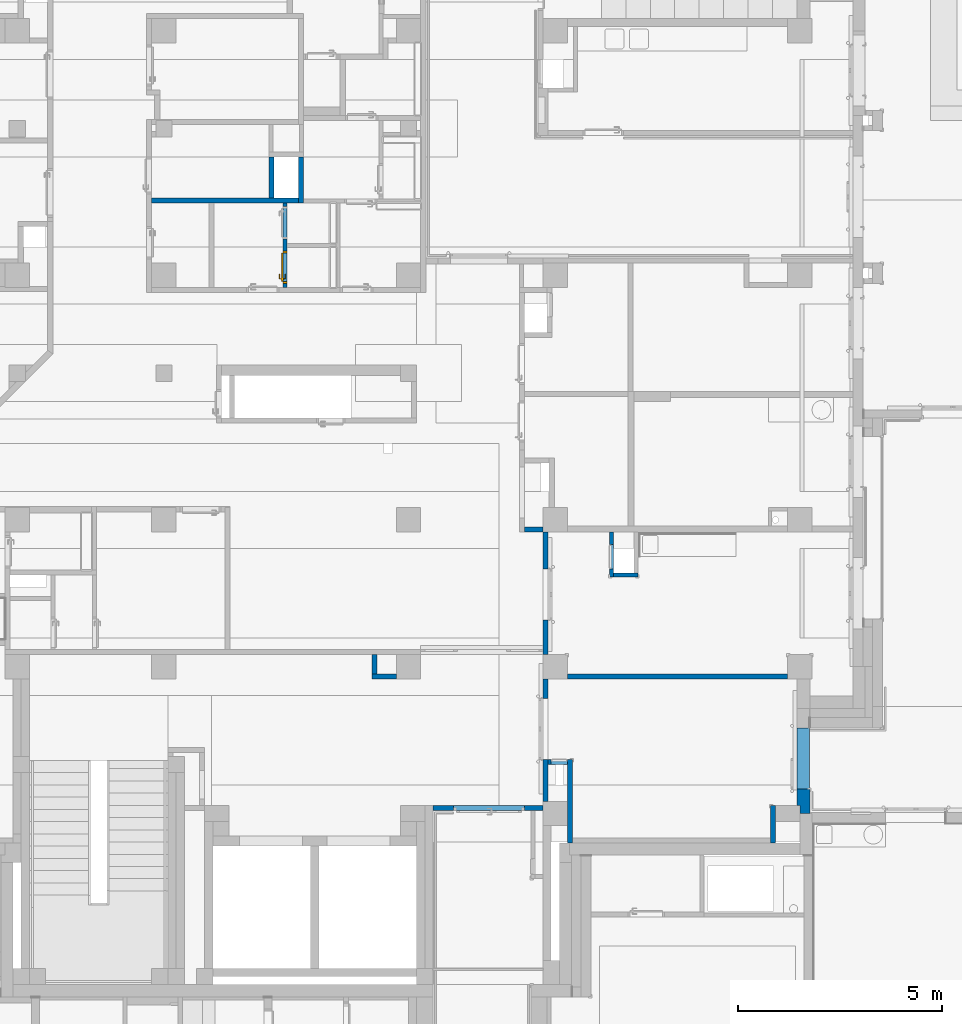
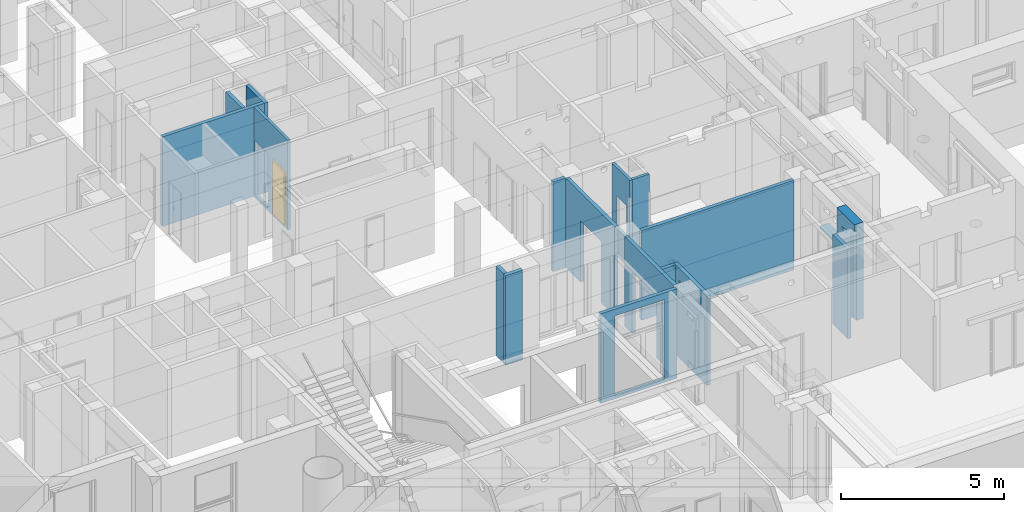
# One storey, part 39 of 140: 18 walls, 1 door, 13 openings.
"""IFC4 building model written with IfcOpenShell, lengths in metres."""

from ifc_helpers import new_model, entity, si_unit, converted_unit, derived_unit, frame, frame_2d, origin, origin_with_axes, place, context, subcontext, project, spatial, polyline, rectangle, outline, extrude, clip, bounded_halfspace, closed_shell, open_shell, surface_model, source, transform, mapped, material, layer, layer_set, layer_usage, type_object, element, fill, save


model = new_model("IFC4")

# Units and contexts
model_context = context("Model", 3, precision=1e-05, world=origin())
body_context = subcontext(model_context, "Body", "Model", "MODEL_VIEW")
ifc_project = project(units=[si_unit("LENGTHUNIT", "METRE"), si_unit("AREAUNIT", "SQUARE_METRE"), si_unit("VOLUMEUNIT", "CUBIC_METRE"), si_unit("MASSUNIT", "GRAM", prefix="KILO"), converted_unit("PLANEANGLEUNIT", "DEGREE", entity("IfcPlaneAngleMeasure", 0.0174532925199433), si_unit("PLANEANGLEUNIT", "RADIAN"), dimensions=[0, 0, 0, 0, 0, 0, 0]), derived_unit("THERMALTRANSMITTANCEUNIT", [(si_unit("POWERUNIT", "WATT"), 1), (si_unit("THERMODYNAMICTEMPERATUREUNIT", "KELVIN"), -1), (si_unit("LENGTHUNIT", "METRE"), -2)]), derived_unit("VOLUMETRICFLOWRATEUNIT", [(si_unit("LENGTHUNIT", "METRE"), 3), (converted_unit("TIMEUNIT", "hour", entity("IfcTimeMeasure", 3600.0), si_unit("TIMEUNIT", "SECOND"), dimensions=[0, 0, 1, 0, 0, 0, 0]), -1), (si_unit("LENGTHUNIT", "METRE"), -1)])], contexts=[model_context])

# Site, building, storey
site_placement = place(None, origin())
site = spatial("IfcSite", under=ifc_project, at=site_placement, Name="3. ASŘ", CompositionType="ELEMENT")
building_placement = place(site_placement, origin())
building = spatial("IfcBuilding", under=site, at=building_placement, Name="Pavilon C", CompositionType="ELEMENT")
storey_placement = place(building_placement, origin())
storey = spatial("IfcBuildingStorey", under=building, at=storey_placement, Name="Půdorys 1.NP", CompositionType="ELEMENT", Elevation=0.0)

# Walls
ifc_material_1 = material(Name="ZDIVO Z CDm")
ifc_layer_1 = layer(ifc_material_1, 0.125)
ifc_layer_set_1 = layer_set([ifc_layer_1])
ifc_layer_usage_1 = layer_usage(ifc_layer_set_1, "AXIS2", "POSITIVE", 0.0)
wall_1_placement = place(storey_placement, frame((37.05, 15.1, -0.1), z_axis=(0.0, 0.0, 1.0), x_axis=(0.0, 1.0, 0.0)))
element("IfcWall", 1, at=wall_1_placement, inside=storey, material=ifc_layer_usage_1, Name="ZDIVO Z CDm", context=body_context, shape_type="SweptSolid", body=[
    extrude(rectangle(XDim=1.0, YDim=0.125, at=frame_2d((0.5, 0.0625), x_axis=(1.0, 0.0))), origin_with_axes(), (0.0, 0.0, 1.0), 3.35),
])
ifc_material_2 = material(Name="ZDIVO Z CDm")
ifc_layer_2 = layer(ifc_material_2, 0.125)
ifc_layer_set_2 = layer_set([ifc_layer_2])
ifc_layer_usage_2 = layer_usage(ifc_layer_set_2, "AXIS2", "POSITIVE", 0.0)
wall_2_placement = place(storey_placement, frame((39.45, 3.29999999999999, -0.1)))
element("IfcWall", 2, at=wall_2_placement, inside=storey, material=ifc_layer_usage_2, Name="ZDIVO Z CDm", context=body_context, shape_type="SweptSolid", body=[
    extrude(rectangle(XDim=0.6, YDim=0.125, at=frame_2d((0.3, 0.0625), x_axis=(1.0, 0.0))), origin_with_axes(), (0.0, 0.0, 1.0), 3.35),
])
ifc_material_3 = material(Name="ZDIVO Z CDm")
ifc_layer_3 = layer(ifc_material_3, 0.125)
ifc_layer_set_3 = layer_set([ifc_layer_3])
ifc_layer_usage_3 = layer_usage(ifc_layer_set_3, "AXIS2", "POSITIVE", 0.0)
wall_3_placement = place(storey_placement, frame((39.45, 3.89999999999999, -0.1), z_axis=(0.0, 0.0, 1.0), x_axis=(0.0, -1.0, 0.0)))
element("IfcWall", 3, at=wall_3_placement, inside=storey, material=ifc_layer_usage_3, Name="ZDIVO Z CDm", context=body_context, shape_type="SweptSolid", body=[
    extrude(rectangle(XDim=0.475, YDim=0.125, at=frame_2d((0.2375, 0.0625), x_axis=(1.0, 0.0))), origin_with_axes(), (0.0, 0.0, 1.0), 3.35),
])

# Wall, openings
ifc_material_4 = material(Name="ZDIVO Z CDm")
ifc_layer_4 = layer(ifc_material_4, 0.125)
ifc_layer_set_4 = layer_set([ifc_layer_4])
ifc_layer_usage_4 = layer_usage(ifc_layer_set_4, "AXIS2", "POSITIVE", 0.0)
wall_4_placement = place(storey_placement, frame((44.25, 1.32499999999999, -0.1), z_axis=(0.0, 0.0, 1.0), x_axis=(0.0, -1.0, 0.0)))
wall_4 = element("IfcWall", 4, at=wall_4_placement, inside=storey, material=ifc_layer_usage_4, Name="ZDIVO Z CDm", context=body_context, shape_type="SweptSolid", body=[
    extrude(rectangle(XDim=2.045, YDim=0.125, at=frame_2d((1.0225, 0.0625), x_axis=(1.0, 0.0))), origin_with_axes(), (0.0, 0.0, 1.0), 3.35),
])
opening_1_placement = place(wall_4_placement, frame((0.883125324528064, 0.0, 3.155), z_axis=(0.0, 1.0, 0.0), x_axis=(0.0, 0.0, 1.0)))
element("IfcOpeningElement", 5, at=opening_1_placement, cuts=wall_4, Name="ZTI", ObjectType="Opening", context=body_context, shape_type="SweptSolid", body=[
    extrude(outline(polyline([(0.0349999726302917, 0.0), (0.0313414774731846, 0.000191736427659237), (0.0277230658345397, 0.000764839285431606), (0.0241843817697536, 0.00171302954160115), (0.0207641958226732, 0.00302591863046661), (0.0174999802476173, 0.00468912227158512), (0.0144274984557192, 0.00668441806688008), (0.0115804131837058, 0.00898994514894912), (0.00898991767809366, 0.011580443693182), (0.00668439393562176, 0.0144275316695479), (0.00468910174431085, 0.0175000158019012), (0.00302590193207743, 0.0207642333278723), (0.00171301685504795, 0.0241844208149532), (0.000764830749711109, 0.0277231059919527), (0.000191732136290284, 0.031341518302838), (0.0, 0.0350000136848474), (0.00019173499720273, 0.0386585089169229), (0.00076483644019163, 0.0422769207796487), (0.00171302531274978, 0.0458156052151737), (0.00302591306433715, 0.0492357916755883), (0.00468911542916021, 0.0525000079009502), (0.00668441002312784, 0.0555724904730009), (0.00898993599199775, 0.0584195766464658), (0.011580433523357, 0.0610100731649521), (0.0144275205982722, 0.0633155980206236), (0.0175000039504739, 0.0653108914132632), (0.0207642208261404, 0.066974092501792), (0.024184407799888, 0.0682869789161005), (0.0277230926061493, 0.0692351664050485), (0.0313415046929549, 0.0698082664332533), (0.0349999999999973, 0.07), (0.0386584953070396, 0.0698082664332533), (0.0422769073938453, 0.0692351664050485), (0.0458155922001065, 0.0682869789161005), (0.0492357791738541, 0.066974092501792), (0.0524999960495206, 0.0653108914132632), (0.0555724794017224, 0.0633155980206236), (0.0584195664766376, 0.0610100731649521), (0.0610100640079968, 0.0584195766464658), (0.0633155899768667, 0.0555724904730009), (0.0653108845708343, 0.0525000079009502), (0.0669740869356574, 0.0492357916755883), (0.0682869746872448, 0.0458156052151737), (0.0692351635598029, 0.0422769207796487), (0.0698082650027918, 0.0386585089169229), (0.0699999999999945, 0.0350000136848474), (0.0698082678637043, 0.031341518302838), (0.0692351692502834, 0.0277231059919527), (0.0682869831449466, 0.0241844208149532), (0.0669740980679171, 0.0207642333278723), (0.0653108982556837, 0.0175000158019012), (0.0633156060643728, 0.0144275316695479), (0.0610100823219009, 0.011580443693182), (0.0584195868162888, 0.00898994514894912), (0.0555725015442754, 0.00668441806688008), (0.0525000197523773, 0.00468912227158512), (0.0492358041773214, 0.00302591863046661), (0.0458156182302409, 0.00171302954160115), (0.0422769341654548, 0.000764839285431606), (0.03865852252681, 0.000191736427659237), (0.0349999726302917, 0.0)])), origin_with_axes(), (0.0, 0.0, 1.0), 0.125),
])
opening_2_placement = place(wall_4_placement, frame((0.320852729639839, 0.0, 2.79), z_axis=(0.0, 1.0, 0.0), x_axis=(0.0, 0.0, 1.0)))
element("IfcOpeningElement", 6, at=opening_2_placement, cuts=wall_4, Name="ZTI", ObjectType="Opening", context=body_context, shape_type="SweptSolid", body=[
    extrude(outline(polyline([(0.0, 0.275), (0.11, 0.275), (0.11, 0.0), (0.0, 0.0), (0.0, 0.275)])), origin_with_axes(), (0.0, 0.0, 1.0), 0.125),
])

# Wall, opening
ifc_material_5 = material(Name="ZDIVO Z CDm")
ifc_layer_5 = layer(ifc_material_5, 0.125)
ifc_layer_set_5 = layer_set([ifc_layer_5])
ifc_layer_usage_5 = layer_usage(ifc_layer_set_5, "AXIS2", "POSITIVE", 0.0)
wall_5_placement = place(storey_placement, frame((43.65, 3.29999999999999, -0.1), z_axis=(0.0, 0.0, 1.0), x_axis=(0.0, -1.0, 0.0)))
wall_5 = element("IfcWall", 7, at=wall_5_placement, inside=storey, material=ifc_layer_usage_5, Name="ZDIVO Z CDm", context=body_context, shape_type="SweptSolid", body=[
    extrude(rectangle(XDim=3.0, YDim=0.125, at=frame_2d((1.5, 0.0625), x_axis=(1.0, 0.0))), origin_with_axes(), (0.0, 0.0, 1.0), 3.35),
])
opening_3_placement = place(wall_5_placement, frame((1.975, 0.125, 0.0), z_axis=(0.0, -1.0, 0.0), x_axis=(0.0, 0.0, 1.0)))
element("IfcOpeningElement", 8, at=opening_3_placement, cuts=wall_5, Name="Dveřní otvor", ObjectType="Opening", context=body_context, shape_type="SweptSolid", body=[
    extrude(outline(polyline([(0.0, 1.5), (2.3, 1.5), (2.3, 0.0), (0.0, 0.0), (0.0, 1.5)])), origin_with_axes(), (0.0, 0.0, 1.0), 0.125),
])

# Wall, openings
ifc_material_6 = material(Name="ZDIVO Z CDm")
ifc_layer_6 = layer(ifc_material_6, 0.125)
ifc_layer_set_6 = layer_set([ifc_layer_6])
ifc_layer_usage_6 = layer_usage(ifc_layer_set_6, "AXIS2", "POSITIVE", 0.0)
wall_6_placement = place(storey_placement, frame((44.25, 1.32499999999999, -0.1), z_axis=(0.0, 0.0, 1.0), x_axis=(-1.0, 0.0, 0.0)))
wall_6 = element("IfcWall", 9, at=wall_6_placement, inside=storey, material=ifc_layer_usage_6, Name="ZDIVO Z CDm", context=body_context, shape_type="SweptSolid", body=[
    extrude(rectangle(XDim=0.475, YDim=0.125, at=frame_2d((0.2375, 0.0625), x_axis=(1.0, 0.0))), origin_with_axes(), (0.0, 0.0, 1.0), 3.35),
])
opening_4_placement = place(wall_6_placement, frame((0.155002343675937, 0.0, 2.99), z_axis=(0.0, 1.0, 0.0), x_axis=(0.0, 0.0, 1.0)))
element("IfcOpeningElement", 10, at=opening_4_placement, cuts=wall_6, Name="UT", ObjectType="Opening", context=body_context, shape_type="SweptSolid", body=[
    extrude(outline(polyline([(0.0, 0.28), (0.12, 0.28), (0.12, 0.0), (0.0, 0.0), (0.0, 0.28)])), origin_with_axes(), (0.0, 0.0, 1.0), 0.12),
])
opening_5_placement = place(wall_6_placement, frame((0.0, 0.0, 1.1), z_axis=(0.0, 1.0, 0.0), x_axis=(0.0, 0.0, 1.0)))
element("IfcOpeningElement", 11, at=opening_5_placement, cuts=wall_6, Name="Okenní otvor", ObjectType="Opening", context=body_context, shape_type="SweptSolid", body=[
    extrude(outline(polyline([(0.0, 0.4), (0.4, 0.4), (0.4, 0.0), (0.0, 0.0), (0.0, 0.4)])), origin_with_axes(), (0.0, 0.0, 1.0), 0.125),
])

# Wall, opening
ifc_material_7 = material(Name="ZDIVO Z CDm")
ifc_layer_7 = layer(ifc_material_7, 0.125)
ifc_layer_set_7 = layer_set([ifc_layer_7])
ifc_layer_usage_7 = layer_usage(ifc_layer_set_7, "AXIS2", "POSITIVE", 0.0)
wall_7_placement = place(storey_placement, frame((43.65, 0.199999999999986, -0.1), z_axis=(0.0, 0.0, 1.0), x_axis=(-1.0, 0.0, 0.0)))
wall_7 = element("IfcWall", 12, at=wall_7_placement, inside=storey, material=ifc_layer_usage_7, Name="ZDIVO Z CDm", context=body_context, shape_type="SweptSolid", body=[
    extrude(rectangle(XDim=2.7, YDim=0.125, at=frame_2d((1.35, 0.0625), x_axis=(1.0, 0.0))), origin_with_axes(), (0.0, 0.0, 1.0), 3.35),
])
opening_6_placement = place(wall_7_placement, frame((0.45, 0.0, 0.1), z_axis=(0.0, 1.0, 0.0), x_axis=(0.0, 0.0, 1.0)))
element("IfcOpeningElement", 13, at=opening_6_placement, cuts=wall_7, Name="Dveřní otvor", ObjectType="Opening", context=body_context, shape_type="SweptSolid", body=[
    extrude(outline(polyline([(0.0, 1.75), (3.0, 1.75), (3.0, 0.0), (0.0, 0.0), (0.0, 1.75)])), origin_with_axes(), (0.0, 0.0, 1.0), 0.125),
])

# Wall
ifc_material_8 = material(Name="ZDIVO Z CDm")
ifc_layer_8 = layer(ifc_material_8, 0.125)
ifc_layer_set_8 = layer_set([ifc_layer_8])
ifc_layer_usage_8 = layer_usage(ifc_layer_set_8, "AXIS2", "POSITIVE", 0.0)
wall_8_placement = place(storey_placement, frame((49.225, 0.19999999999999, -0.1), z_axis=(0.0, 0.0, 1.0), x_axis=(0.0, -1.0, 0.0)))
element("IfcWall", 14, at=wall_8_placement, inside=storey, material=ifc_layer_usage_8, Name="ZDIVO Z CDm", context=body_context, shape_type="SweptSolid", body=[
    extrude(rectangle(XDim=0.919999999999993, YDim=0.125, at=frame_2d((0.459999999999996, 0.0625), x_axis=(1.0, 0.0))), origin_with_axes(), (0.0, 0.0, 1.0), 3.35),
])

# Wall, openings, door
ifc_material_9 = material(Name="YTONG 100")
ifc_layer_9 = layer(ifc_material_9, 0.1)
ifc_layer_set_9 = layer_set([ifc_layer_9])
ifc_layer_usage_9 = layer_usage(ifc_layer_set_9, "AXIS2", "POSITIVE", 0.0)
wall_9_placement = place(storey_placement, frame((37.375, 12.9, -0.1), z_axis=(0.0, 0.0, 1.0), x_axis=(0.0, 1.0, 0.0)))
wall_9 = element("IfcWall", 15, at=wall_9_placement, inside=storey, material=ifc_layer_usage_9, Name="YTONG 100", context=body_context, shape_type="SweptSolid", body=[
    extrude(rectangle(XDim=2.075, YDim=0.1, at=frame_2d((1.0375, 0.05), x_axis=(1.0, 0.0))), origin_with_axes(), (0.0, 0.0, 1.0), 3.35),
])
opening_7_placement = place(wall_9_placement, frame((1.1875, 0.0, 0.1), z_axis=(0.0, 1.0, 0.0), x_axis=(0.0, 0.0, 1.0)))
element("IfcOpeningElement", 16, at=opening_7_placement, cuts=wall_9, Name="Dveřní otvor", ObjectType="Opening", context=body_context, shape_type="SweptSolid", body=[
    extrude(outline(polyline([(0.0, 0.8), (2.02, 0.8), (2.02, 0.0), (0.0, 0.0), (0.0, 0.8)])), origin_with_axes(), (0.0, 0.0, 1.0), 0.1),
])
opening_8_placement = place(wall_9_placement, frame((0.0999999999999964, 0.0, 0.1), z_axis=(0.0, 1.0, 0.0), x_axis=(0.0, 0.0, 1.0)))
opening_8 = element("IfcOpeningElement", 17, at=opening_8_placement, cuts=wall_9, Name="Dveřní otvor", ObjectType="Opening", context=body_context, shape_type="SweptSolid", body=[
    extrude(outline(polyline([(0.0, 0.8), (2.02, 0.8), (2.02, 0.0), (0.0, 0.0), (0.0, 0.8)])), origin_with_axes(), (0.0, 0.0, 1.0), 0.1),
])
door_type = type_object("IfcDoorType", Name="D101", OperationType="NOTDEFINED", ParameterTakesPrecedence=False, PredefinedType="DOOR")
shared_shape = source(origin_with_axes(), body_context, "Body", "SurfaceModel", [
    surface_model("IfcShellBasedSurfaceModel", [(0.0, 0.1, 2.02), (0.0, 0.1, -6.12323399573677e-18), (0.05, 0.1, -6.12323399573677e-18), (0.05, 0.1, 2.02), (0.0, 0.0, 6.12323399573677e-18), (0.0, 2.41584530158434e-16, 2.02), (0.05, 2.41584530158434e-16, 2.02), (0.05, 0.0, 6.12323399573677e-18)], [closed_shell([[[0, 1, 2, 3]], [[4, 5, 6, 7]], [[1, 0, 5, 4]], [[2, 1, 4, 7]], [[3, 2, 7, 6]], [[0, 3, 6, 5]]], orient=[[False], [False], [False], [False], [False], [False]])]),
    surface_model("IfcShellBasedSurfaceModel", [(0.75, 0.1, 2.02), (0.75, 0.1, -6.12323399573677e-18), (0.8, 0.1, -6.12323399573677e-18), (0.8, 0.1, 2.02), (0.75, 0.0, 6.12323399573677e-18), (0.75, 2.41584530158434e-16, 2.02), (0.8, 2.41584530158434e-16, 2.02), (0.8, 0.0, 6.12323399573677e-18)], [closed_shell([[[0, 1, 2, 3]], [[4, 5, 6, 7]], [[1, 0, 5, 4]], [[2, 1, 4, 7]], [[3, 2, 7, 6]], [[0, 3, 6, 5]]], orient=[[False], [False], [False], [False], [False], [False]])]),
    surface_model("IfcShellBasedSurfaceModel", [(0.05, 0.1, 2.02), (0.05, 0.1, 1.97), (0.75, 0.1, 1.97), (0.75, 0.1, 2.02), (0.05, 2.41584530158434e-16, 1.97), (0.05, 2.41584530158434e-16, 2.02), (0.75, 2.41584530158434e-16, 2.02), (0.75, 2.41584530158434e-16, 1.97)], [closed_shell([[[0, 1, 2, 3]], [[4, 5, 6, 7]], [[1, 0, 5, 4]], [[2, 1, 4, 7]], [[3, 2, 7, 6]], [[0, 3, 6, 5]]], orient=[[False], [False], [False], [False], [False], [False]])]),
    surface_model("IfcShellBasedSurfaceModel", [(0.05, 0.14, 1.97), (0.05, 0.14, -1.10218211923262e-17), (0.75, 0.14, -1.10218211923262e-17), (0.75, 0.14, 1.97), (0.05, 0.1, -6.12323399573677e-18), (0.05, 0.1, 1.97), (0.75, 0.1, 1.97), (0.75, 0.1, -6.12323399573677e-18)], [closed_shell([[[0, 1, 2, 3]], [[4, 5, 6, 7]], [[1, 0, 5, 4]], [[2, 1, 4, 7]], [[3, 2, 7, 6]], [[0, 3, 6, 5]]], orient=[[False], [False], [False], [False], [False], [False]])]),
    surface_model("IfcShellBasedSurfaceModel", [(0.66, 0.1, 1.125), (0.66, 0.1, 0.91), (0.71, 0.1, 0.91), (0.71, 0.1, 1.125), (0.66, 0.0900000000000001, 0.91), (0.66, 0.0900000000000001, 1.125), (0.71, 0.0900000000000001, 1.125), (0.71, 0.0900000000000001, 0.91)], [closed_shell([[[0, 1, 2, 3]], [[4, 5, 6, 7]], [[1, 0, 5, 4]], [[2, 1, 4, 7]], [[3, 2, 7, 6]], [[0, 3, 6, 5]]], orient=[[False], [False], [False], [False], [False], [False]])]),
    surface_model("IfcShellBasedSurfaceModel", [(0.685, 0.0900000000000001, 1.06), (0.68, 0.0900000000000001, 1.05866025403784), (0.676339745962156, 0.0900000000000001, 1.055), (0.675, 0.0900000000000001, 1.05), (0.676339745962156, 0.0900000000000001, 1.045), (0.68, 0.0900000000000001, 1.04133974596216), (0.685, 0.0900000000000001, 1.04), (0.69, 0.0900000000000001, 1.04133974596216), (0.693660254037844, 0.0900000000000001, 1.045), (0.695, 0.0900000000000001, 1.05), (0.693660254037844, 0.0900000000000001, 1.055), (0.69, 0.0900000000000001, 1.05866025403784), (0.69, 0.0450000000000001, 1.05866025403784), (0.685, 0.0500000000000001, 1.06), (0.693660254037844, 0.0413397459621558, 1.055), (0.695, 0.0400000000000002, 1.05), (0.693660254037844, 0.0413397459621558, 1.045), (0.69, 0.0450000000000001, 1.04133974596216), (0.685, 0.0500000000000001, 1.04), (0.68, 0.0550000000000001, 1.04133974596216), (0.676339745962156, 0.0586602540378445, 1.045), (0.675, 0.0600000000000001, 1.05), (0.676339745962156, 0.0586602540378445, 1.055), (0.68, 0.0550000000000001, 1.05866025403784), (0.57, 0.0450000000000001, 1.05866025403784), (0.57, 0.0500000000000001, 1.06), (0.57, 0.0413397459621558, 1.055), (0.57, 0.0400000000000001, 1.05), (0.57, 0.0413397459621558, 1.045), (0.57, 0.0450000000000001, 1.04133974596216), (0.57, 0.0500000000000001, 1.04), (0.57, 0.0550000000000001, 1.04133974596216), (0.57, 0.0586602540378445, 1.045), (0.57, 0.0600000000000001, 1.05), (0.57, 0.0586602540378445, 1.055), (0.57, 0.0550000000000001, 1.05866025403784)], [open_shell([[[0, 1, 2, 3, 4, 5, 6, 7, 8, 9, 10, 11]], [[0, 11, 12, 13]], [[11, 10, 14, 12]], [[10, 9, 15, 14]], [[9, 8, 16, 15]], [[8, 7, 17, 16]], [[7, 6, 18, 17]], [[6, 5, 19, 18]], [[5, 4, 20, 19]], [[4, 3, 21, 20]], [[3, 2, 22, 21]], [[2, 1, 23, 22]], [[1, 0, 13, 23]], [[13, 12, 24, 25]], [[12, 14, 26, 24]], [[14, 15, 27, 26]], [[15, 16, 28, 27]], [[16, 17, 29, 28]], [[17, 18, 30, 29]], [[18, 19, 31, 30]], [[19, 20, 32, 31]], [[20, 21, 33, 32]], [[21, 22, 34, 33]], [[22, 23, 35, 34]], [[23, 13, 25, 35]]], orient=[[False], [False], [False], [False], [False], [False], [False], [False], [False], [False], [False], [False], [False], [False], [False], [False], [False], [False], [False], [False], [False], [False], [False], [False], [False]])]),
    surface_model("IfcShellBasedSurfaceModel", [(0.66, 0.14, 1.125), (0.71, 0.14, 1.125), (0.71, 0.14, 0.91), (0.66, 0.14, 0.91), (0.66, 0.15, 0.91), (0.71, 0.15, 0.91), (0.71, 0.15, 1.125), (0.66, 0.15, 1.125)], [closed_shell([[[0, 1, 2, 3]], [[4, 5, 6, 7]], [[3, 4, 7, 0]], [[2, 5, 4, 3]], [[1, 6, 5, 2]], [[0, 7, 6, 1]]], orient=[[False], [False], [False], [False], [False], [False]])]),
    surface_model("IfcShellBasedSurfaceModel", [(0.685, 0.15, 1.06), (0.69, 0.15, 1.05866025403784), (0.693660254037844, 0.15, 1.055), (0.695, 0.15, 1.05), (0.693660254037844, 0.15, 1.045), (0.69, 0.15, 1.04133974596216), (0.685, 0.15, 1.04), (0.68, 0.15, 1.04133974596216), (0.676339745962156, 0.15, 1.045), (0.675, 0.15, 1.05), (0.676339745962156, 0.15, 1.055), (0.68, 0.15, 1.05866025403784), (0.685, 0.19, 1.06), (0.69, 0.195, 1.05866025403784), (0.693660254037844, 0.198660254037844, 1.055), (0.695, 0.2, 1.05), (0.693660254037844, 0.198660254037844, 1.045), (0.69, 0.195, 1.04133974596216), (0.685, 0.19, 1.04), (0.68, 0.185, 1.04133974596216), (0.676339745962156, 0.181339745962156, 1.045), (0.675, 0.18, 1.05), (0.676339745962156, 0.181339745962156, 1.055), (0.68, 0.185, 1.05866025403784), (0.57, 0.19, 1.06), (0.57, 0.195, 1.05866025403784), (0.57, 0.198660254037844, 1.055), (0.57, 0.2, 1.05), (0.57, 0.198660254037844, 1.045), (0.57, 0.195, 1.04133974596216), (0.57, 0.19, 1.04), (0.57, 0.185, 1.04133974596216), (0.57, 0.181339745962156, 1.045), (0.57, 0.18, 1.05), (0.57, 0.181339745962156, 1.055), (0.57, 0.185, 1.05866025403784)], [open_shell([[[0, 1, 2, 3, 4, 5, 6, 7, 8, 9, 10, 11]], [[0, 12, 13, 1]], [[1, 13, 14, 2]], [[2, 14, 15, 3]], [[3, 15, 16, 4]], [[4, 16, 17, 5]], [[5, 17, 18, 6]], [[6, 18, 19, 7]], [[7, 19, 20, 8]], [[8, 20, 21, 9]], [[9, 21, 22, 10]], [[10, 22, 23, 11]], [[11, 23, 12, 0]], [[12, 24, 25, 13]], [[13, 25, 26, 14]], [[14, 26, 27, 15]], [[15, 27, 28, 16]], [[16, 28, 29, 17]], [[17, 29, 30, 18]], [[18, 30, 31, 19]], [[19, 31, 32, 20]], [[20, 32, 33, 21]], [[21, 33, 34, 22]], [[22, 34, 35, 23]], [[23, 35, 24, 12]]], orient=[[False], [False], [False], [False], [False], [False], [False], [False], [False], [False], [False], [False], [False], [False], [False], [False], [False], [False], [False], [False], [False], [False], [False], [False], [False]])]),
])
door_placement = place(opening_8_placement, frame((0.0, 0.799999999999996, 1.45519152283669e-14), z_axis=(1.0, 0.0, 0.0), x_axis=(0.0, -1.0, 1.22464679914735e-16)))
door = element("IfcDoor", 18, at=door_placement, inside=storey, type_object=door_type, Name="D101", OverallHeight=2.02, OverallWidth=0.8, context=body_context, shape_type="MappedRepresentation", body=[
    mapped(shared_shape, transform((0.0, 0.0, 0.0), x_axis=(1.0, 0.0, 0.0), y_axis=(0.0, -1.0, 0.0), z_axis=(0.0, 0.0, 1.0), scale=1.0)),
])
fill(opening_8, door)

# Walls
ifc_material_10 = material(Name="ZDIVO Z CDm")
ifc_layer_10 = layer(ifc_material_10, 0.125)
ifc_layer_set_10 = layer_set([ifc_layer_10])
ifc_layer_usage_10 = layer_usage(ifc_layer_set_10, "AXIS2", "POSITIVE", 0.0)
wall_10_placement = place(storey_placement, frame((37.775, 14.975, -0.1), z_axis=(0.0, 0.0, 1.0), x_axis=(0.0, 1.0, 0.0)))
element("IfcWall", 19, at=wall_10_placement, inside=storey, material=ifc_layer_usage_10, Name="ZDIVO Z CDm", context=body_context, shape_type="SweptSolid", body=[
    extrude(rectangle(XDim=1.125, YDim=0.125, at=frame_2d((0.5625, 0.0625), x_axis=(1.0, 0.0))), origin_with_axes(), (0.0, 0.0, 1.0), 3.35),
])
ifc_material_11 = material(Name="ZDIVO Z CDm")
ifc_layer_11 = layer(ifc_material_11, 0.125)
ifc_layer_set_11 = layer_set([ifc_layer_11])
ifc_layer_usage_11 = layer_usage(ifc_layer_set_11, "AXIS2", "POSITIVE", 0.0)
wall_11_placement = place(storey_placement, frame((34.05, 14.975, -0.1)))
element("IfcWall", 20, at=wall_11_placement, inside=storey, material=ifc_layer_usage_11, Name="ZDIVO Z CDm", context=body_context, shape_type="SweptSolid", body=[
    extrude(rectangle(XDim=3.6, YDim=0.125, at=frame_2d((1.8, 0.0625), x_axis=(1.0, 0.0))), origin_with_axes(), (0.0, 0.0, 1.0), 3.35),
])
ifc_material_12 = material(Name="ZDIVO Z CDm")
ifc_layer_12 = layer(ifc_material_12, 0.125)
ifc_layer_set_12 = layer_set([ifc_layer_12])
ifc_layer_usage_12 = layer_usage(ifc_layer_set_12, "AXIS2", "POSITIVE", 0.0)
wall_12_placement = place(storey_placement, frame((43.2, 6.89999999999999, -0.1)))
element("IfcWall", 21, at=wall_12_placement, inside=storey, material=ifc_layer_usage_12, Name="ZDIVO Z CDm", context=body_context, shape_type="SweptSolid", body=[
    extrude(rectangle(XDim=0.45, YDim=0.125, at=frame_2d((0.225, 0.0625), x_axis=(1.0, 0.0))), origin_with_axes(), (0.0, 0.0, 1.0), 3.35),
])

# Wall, openings
ifc_material_13 = material(Name="PLYNOSILIKÁT")
ifc_layer_13 = layer(ifc_material_13, 0.32)
ifc_layer_set_13 = layer_set([ifc_layer_13])
ifc_layer_usage_13 = layer_usage(ifc_layer_set_13, "AXIS2", "POSITIVE", 0.0)
wall_13_placement = place(storey_placement, frame((50.2, -5.51980683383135e-15, -0.1), z_axis=(0.0, 0.0, 1.0), x_axis=(0.0, 1.0, 0.0)))
wall_13 = element("IfcWall", 22, at=wall_13_placement, inside=storey, material=ifc_layer_usage_13, Name="PLYNOSILIKÁT", context=body_context, shape_type="Clipping", body=[
    clip(extrude(rectangle(XDim=1.08, YDim=0.32, at=frame_2d((0.54, 0.16), x_axis=(1.0, 0.0))), origin_with_axes(), (0.0, 0.0, 1.0), 3.6), bounded_halfspace(frame((0.0999999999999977, 0.285, 3.35), z_axis=(0.0, 0.0, 1.0), x_axis=(0.0, 1.0, 0.0)), True, origin_with_axes(), polyline([(0.199999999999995, 0.25), (0.199999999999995, 0.32), (-5.08482145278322e-17, 0.32), (-5.08482145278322e-17, 0.25), (0.199999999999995, 0.25)]))),
])
opening_9_placement = place(wall_13_placement, frame((1.08, 0.32, 0.0), z_axis=(0.0, -1.0, 0.0), x_axis=(0.0, 0.0, 1.0)))
element("IfcOpeningElement", 23, at=opening_9_placement, cuts=wall_13, Name="Dveřní otvor", ObjectType="Opening", context=body_context, shape_type="SweptSolid", body=[
    extrude(outline(polyline([(0.0, 0.48), (2.2, 0.48), (2.2, 0.0), (0.0, 0.0), (0.0, 0.48)])), origin_with_axes(), (0.0, 0.0, 1.0), 0.32),
])
opening_10_placement = place(wall_13_placement, frame((0.479166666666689, 0.0, 2.99), z_axis=(0.0, 1.0, 0.0), x_axis=(0.0, 0.0, 1.0)))
element("IfcOpeningElement", 24, at=opening_10_placement, cuts=wall_13, Name="ZTI", ObjectType="Opening", context=body_context, shape_type="SweptSolid", body=[
    extrude(outline(polyline([(0.0, 0.275), (0.11, 0.275), (0.11, 0.0), (0.0, 0.0), (0.0, 0.275)])), origin_with_axes(), (0.0, 0.0, 1.0), 0.32),
])

# Wall, opening
ifc_material_14 = material(Name="YTONG 125")
ifc_layer_14 = layer(ifc_material_14, 0.125)
ifc_layer_set_14 = layer_set([ifc_layer_14])
ifc_layer_usage_14 = layer_usage(ifc_layer_set_14, "AXIS2", "POSITIVE", 0.0)
wall_14_placement = place(storey_placement, frame((43.65, 6.89999999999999, -0.1), z_axis=(0.0, 0.0, 1.0), x_axis=(0.0, -1.0, 0.0)))
wall_14 = element("IfcWall", 25, at=wall_14_placement, inside=storey, material=ifc_layer_usage_14, Name="YTONG 125", context=body_context, shape_type="SweptSolid", body=[
    extrude(rectangle(XDim=3.0, YDim=0.125, at=frame_2d((1.5, 0.0625), x_axis=(1.0, 0.0))), origin_with_axes(), (0.0, 0.0, 1.0), 3.35),
])
opening_11_placement = place(wall_14_placement, frame((0.9, 0.0, 0.0), z_axis=(0.0, 1.0, 0.0), x_axis=(0.0, 0.0, 1.0)))
element("IfcOpeningElement", 26, at=opening_11_placement, cuts=wall_14, Name="Dveřní otvor", ObjectType="Opening", context=body_context, shape_type="SweptSolid", body=[
    extrude(outline(polyline([(0.0, 1.25), (2.3, 1.25), (2.3, 0.0), (0.0, 0.0), (0.0, 1.25)])), origin_with_axes(), (0.0, 0.0, 1.0), 0.125),
])

ifc_material_15 = material(Name="YTONG 300")
ifc_layer_15 = layer(ifc_material_15, 0.3)
ifc_layer_set_15 = layer_set([ifc_layer_15])
ifc_layer_usage_15 = layer_usage(ifc_layer_set_15, "AXIS2", "POSITIVE", 0.0)
wall_15_placement = place(storey_placement, frame((49.88, 2.1, -0.1), z_axis=(0.0, 0.0, 1.0), x_axis=(0.0, -1.0, 0.0)))
wall_15 = element("IfcWall", 27, at=wall_15_placement, inside=storey, material=ifc_layer_usage_15, Name="YTONG 300", context=body_context, shape_type="SweptSolid", body=[
    extrude(rectangle(XDim=1.5, YDim=0.3, at=frame_2d((0.749999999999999, 0.15), x_axis=(1.0, 0.0))), origin_with_axes(), (0.0, 0.0, 1.0), 2.3),
])
opening_12_placement = place(wall_15_placement, frame((0.0, 0.0, 0.0), z_axis=(0.0, 1.0, 0.0), x_axis=(0.0, 0.0, 1.0)))
element("IfcOpeningElement", 28, at=opening_12_placement, cuts=wall_15, Name="Dveřní otvor", ObjectType="Opening", context=body_context, shape_type="SweptSolid", body=[
    extrude(outline(polyline([(0.0, 1.5), (2.2, 1.5), (2.2, 0.0), (0.0, 0.0), (0.0, 1.5)])), origin_with_axes(), (0.0, 0.0, 1.0), 0.3),
])

# Wall
ifc_material_16 = material(Name="SDK - 1 KCE + DVOJITÉ OPLÁŠTĚNÍ")
ifc_layer_16 = layer(ifc_material_16, 0.125)
ifc_layer_set_16 = layer_set([ifc_layer_16])
ifc_layer_usage_16 = layer_usage(ifc_layer_set_16, "AXIS2", "POSITIVE", 0.0)
wall_16_placement = place(storey_placement, frame((44.25, 3.29999999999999, -0.1)))
element("IfcWall", 29, at=wall_16_placement, inside=storey, material=ifc_layer_usage_16, Name="SDK - 1 KCE + DVOJITÉ OPLÁŠTĚNÍ", context=body_context, shape_type="SweptSolid", body=[
    extrude(rectangle(XDim=5.4, YDim=0.125, at=frame_2d((2.7, 0.0625), x_axis=(1.0, 0.0))), origin_with_axes(), (0.0, 0.0, 1.0), 3.35),
])

# Wall, opening
ifc_material_17 = material(Name="SDK ŠACHTOVÁ STĚNA/SDK OPL. S PO")
ifc_layer_17 = layer(ifc_material_17, 0.1)
ifc_layer_set_17 = layer_set([ifc_layer_17])
ifc_layer_usage_17 = layer_usage(ifc_layer_set_17, "AXIS2", "POSITIVE", 0.0)
wall_17_placement = place(storey_placement, frame((45.38, 5.79999999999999, 0.0), z_axis=(0.0, 0.0, 1.0), x_axis=(0.0, 1.0, 0.0)))
wall_17 = element("IfcWall", 30, at=wall_17_placement, inside=storey, material=ifc_layer_usage_17, Name="SDK ŠACHTOVÁ STĚNA/SDK OPL. S PO", context=body_context, shape_type="SweptSolid", body=[
    extrude(rectangle(XDim=1.1, YDim=0.1, at=frame_2d((0.55, 0.05), x_axis=(1.0, 0.0))), origin_with_axes(), (0.0, 0.0, 1.0), 3.25),
])
opening_13_placement = place(wall_17_placement, frame((0.799999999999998, 0.1, 1.0), z_axis=(0.0, -1.0, 0.0), x_axis=(0.0, 0.0, 1.0)))
element("IfcOpeningElement", 31, at=opening_13_placement, cuts=wall_17, Name="Okenní otvor", ObjectType="Opening", context=body_context, shape_type="SweptSolid", body=[
    extrude(outline(polyline([(0.0, 0.6), (1.2, 0.6), (1.2, 0.0), (0.0, 0.0), (0.0, 0.6)])), origin_with_axes(), (0.0, 0.0, 1.0), 0.1),
])

# Wall
ifc_material_18 = material(Name="SDK ŠACHTOVÁ STĚNA/SDK OPL. S PO")
ifc_layer_18 = layer(ifc_material_18, 0.1)
ifc_layer_set_18 = layer_set([ifc_layer_18])
ifc_layer_usage_18 = layer_usage(ifc_layer_set_18, "AXIS2", "POSITIVE", 0.0)
wall_18_placement = place(storey_placement, frame((45.98, 5.89999999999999, 0.0), z_axis=(0.0, 0.0, 1.0), x_axis=(-1.0, 0.0, 0.0)))
element("IfcWall", 32, at=wall_18_placement, inside=storey, material=ifc_layer_usage_18, Name="SDK ŠACHTOVÁ STĚNA/SDK OPL. S PO", context=body_context, shape_type="SweptSolid", body=[
    extrude(rectangle(XDim=0.6, YDim=0.1, at=frame_2d((0.3, 0.05), x_axis=(1.0, 0.0))), origin_with_axes(), (0.0, 0.0, 1.0), 3.25),
])

save(model, "model.ifc")
